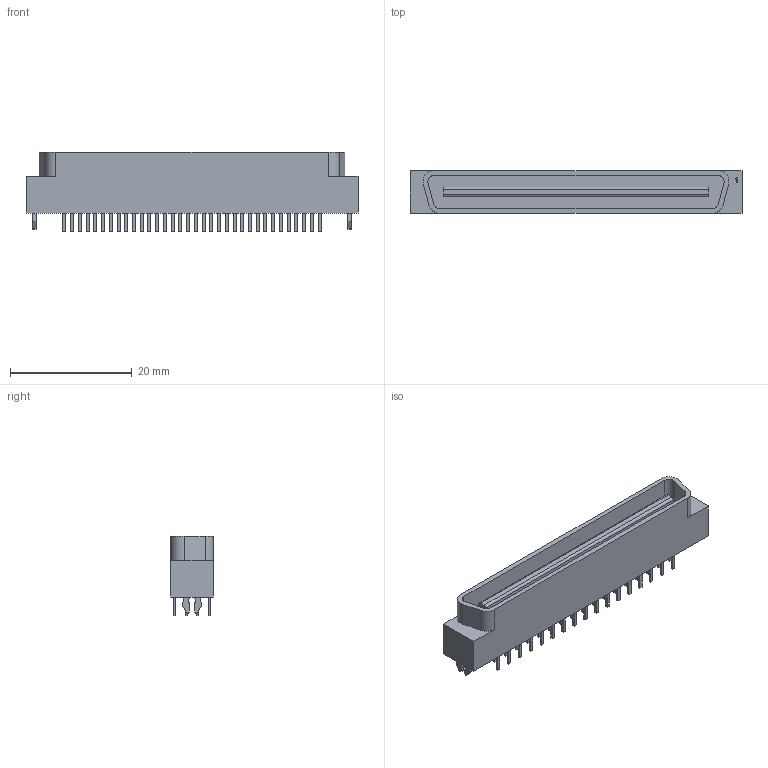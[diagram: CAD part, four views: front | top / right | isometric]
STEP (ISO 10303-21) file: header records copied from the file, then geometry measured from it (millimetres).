
FILE_DESCRIPTION((''),'2;1');
FILE_NAME('C-5175473-38-3','2008-01-31T',('workeradm'),('Tyco Electronics Corporation'),'PRO/ENGINEER BY PARAMETRIC TECHNOLOGY CORPORATION, 2005450','PRO/ENGINEER BY PARAMETRIC TECHNOLOGY CORPORATION, 2005450','');
FILE_SCHEMA(('CONFIG_CONTROL_DESIGN', 'GEOMETRIC_VALIDATION_PROPERTIES_MIM'));
Length unit declared in the file: millimetre
Products named in the file (1): C-5175473-38-3
Bounding box: 54.53 x 7 x 13.1 mm (x, y, z)
Volume: 2879.6 mm3; surface area: 2994.5 mm2
Topology: 1 solids, 1 shells, 410 faces, 999 edges, 666 vertices
Faces by surface type: plane 392, cylinder 18
Entity records: 11928 total; most frequent: CARTESIAN_POINT 2076, ORIENTED_EDGE 1998, DIRECTION 1855, EDGE_CURVE 999, VECTOR 963, LINE 963, VERTEX_POINT 666, EDGE_LOOP 485
